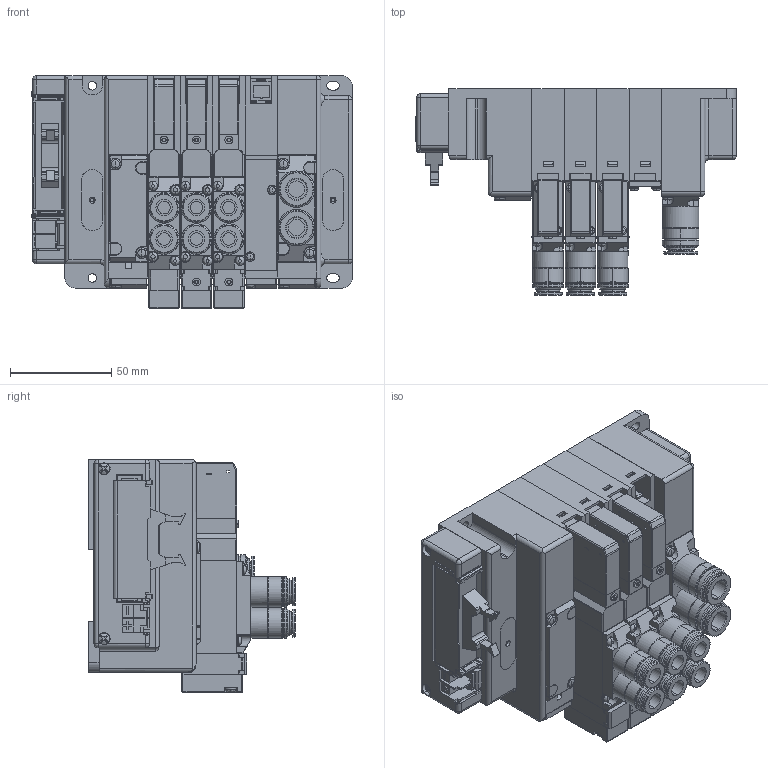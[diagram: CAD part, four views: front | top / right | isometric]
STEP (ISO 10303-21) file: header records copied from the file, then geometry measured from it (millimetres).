
FILE_DESCRIPTION( (''), '2;1');
FILE_NAME ('CVICAD02.4348.F15M4XP-JR-F10x_21632.stp','2021-07-12T19:13:44',(''),(''),'spGate 12.6.6','','');
FILE_SCHEMA (('AUTOMOTIVE_DESIGN'));
Length unit declared in the file: millimetre
Products named in the file (24): Assembly; CVICAD02-prt0; CVICAD02-prt1; CVICAD02-asm1; CVICAD02-asm2; CVICAD02-prt10; CVICAD02-asm3; CVICAD02-asm4; CVICAD02-prt14; CVICAD02-asm5; CVICAD02-prt17; CVICAD02-prt2; CVICAD02-prt3; CVICAD02-prt4; CVICAD02-prt5; CVICAD02-prt6; CVICAD02-prt7; CVICAD02-prt8; CVICAD02-prt9; CVICAD02-prt11; Y029261_キャップ(DINねじ穴用)_20190809; CVICAD02-prt13; CVICAD02-prt15; CVICAD02-prt16
Assembly tree (39 placements, depth 3):
  Assembly
    CVICAD02-prt0  x4
    CVICAD02-prt1  x3
    CVICAD02-asm1
      CVICAD02-prt2
      CVICAD02-prt3
      CVICAD02-prt4
      CVICAD02-prt5
      CVICAD02-prt6
      CVICAD02-prt7
      CVICAD02-prt8
    CVICAD02-asm2  x2
      CVICAD02-prt2
      CVICAD02-prt3
      CVICAD02-prt4
      CVICAD02-prt6
      CVICAD02-prt9
      CVICAD02-prt7
      CVICAD02-prt8
    CVICAD02-prt10
    CVICAD02-asm3
      CVICAD02-prt11
      Y029261_キャップ(DINねじ穴用)_20190809
    CVICAD02-asm4
      Y029261_キャップ(DINねじ穴用)_20190809
      CVICAD02-prt13
    CVICAD02-prt14  x4
    CVICAD02-asm5
      CVICAD02-prt15
      CVICAD02-prt16
    CVICAD02-prt17
Bounding box: 158.4 x 102.1 x 115 mm (x, y, z)
Volume: 826973.4 mm3; surface area: 216405 mm2
Topology: 40 solids, 40 shells, 3532 faces, 9203 edges, 5906 vertices
Faces by surface type: plane 2250, cylinder 921, bspline 303, sphere 58
Entity records: 94697 total; most frequent: CARTESIAN_POINT 12615, ORIENTED_EDGE 9396, DIRECTION 8831, COLOUR_RGB 6513, PRESENTATION_STYLE_ASSIGNMENT 6513, STYLED_ITEM 6513, EDGE_CURVE 4698, DRAUGHTING_PRE_DEFINED_CURVE_FONT 4698
